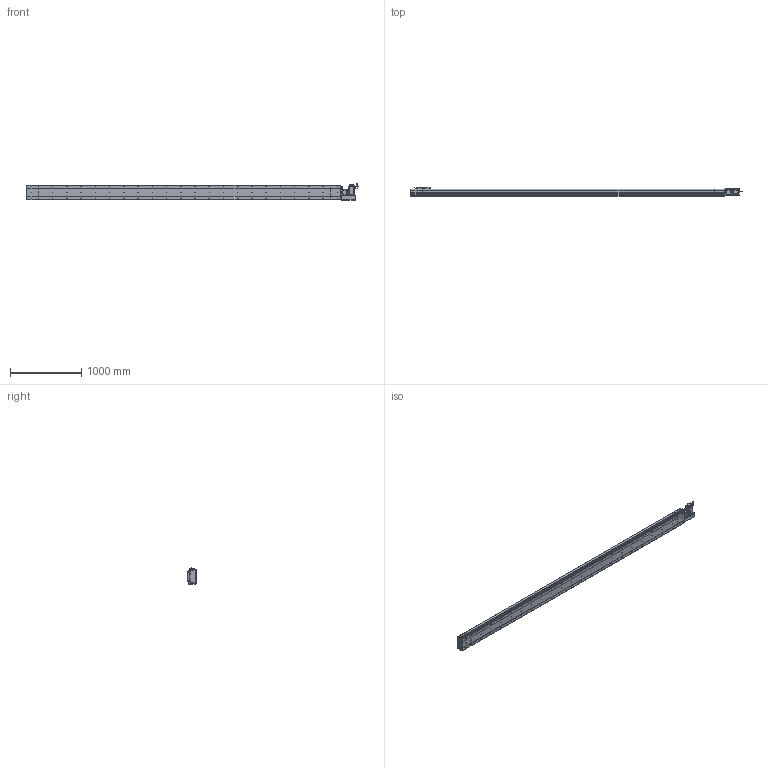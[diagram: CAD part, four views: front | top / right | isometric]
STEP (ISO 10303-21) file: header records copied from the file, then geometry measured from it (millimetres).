
FILE_DESCRIPTION (( 'STEP AP214' ), '1' );
FILE_NAME ('D20 CBH RH S4100.STEP', '2010-06-30T11:23:38', ( 'Conseil Régional Haute-Normandie' ), ( 'Conseil Régional Haute-Normandie' ), 'SwSTEP 2.0', 'SolidWorks 2010', '' );
FILE_SCHEMA (( 'AUTOMOTIVE_DESIGN' ));
Length unit declared in the file: millimetre
Products named in the file (31): Plaque De Serrage D20 RH_Default; Support moteur RH_Default; Rondelle Cache D20 RH_Default; corps 90BLDC125A-640; codeur 90BLDC125-640; Conecteur2_Default; Conecteur_Default; ecrou_Default; vis M5 L30_Default; Corp S4100_Default; Cache Support Moteur RH_Default; Couvercle_Default; Plaque De Serrage D20_Default; Tail D20+100_Default; Corp Tail D20+100_Default; Plaque de Bout Tail D20_Default; avant 90BLDC125A-640; Couvercle RH_Default; Plaque de Bout Head D20 RH_Default; Support Chariot D20_Default; Chariot D20_Default; Glissiere_Default; Corp D20 S4100_Default; D20 CBH RH S4100; Head D20 RH_Default; Corp Tail D20 RH_Default; Moteur motionking 90BLDC125A-640; vis M5 L47_Default; Couvercle S4100_Default; vis M5 L15_Default
Assembly tree (68 placements, depth 4):
  D20 CBH RH S4100
    Corp D20 S4100_Default
      Couvercle S4100_Default
      Corp S4100_Default
    Head D20 RH_Default
      Plaque de Bout Head D20 RH_Default
      vis M5 L15_Default  x14
      ecrou_Default  x4
      Moteur motionking 90BLDC125A-640
        codeur 90BLDC125-640
        Conecteur2_Default
        avant 90BLDC125A-640
        Conecteur_Default
        corps 90BLDC125A-640
      Rondelle Cache D20 RH_Default  x3
      vis M5 L30_Default  x4
      vis M5 L47_Default  x4
      Plaque De Serrage D20 RH_Default
      Couvercle RH_Default
      Cache Support Moteur RH_Default
      Support moteur RH_Default
      Corp Tail D20 RH_Default
    Tail D20+100_Default
      vis M5 L15_Default  x6
      Couvercle_Default
      Plaque de Bout Tail D20_Default
      Corp Tail D20+100_Default
      Plaque De Serrage D20_Default
    Chariot D20_Default
      vis M5 L15_Default  x8
      Glissiere_Default
      Chariot D20_Default
      Support Chariot D20_Default
Bounding box: 4665.45 x 119.5 x 229.7 mm (x, y, z)
Volume: 30190562.7 mm3; surface area: 5748142.6 mm2
Topology: 105 solids, 105 shells, 3919 faces, 9714 edges, 6310 vertices
Faces by surface type: plane 2164, bspline 806, cylinder 778, torus 95, cone 72, sphere 4
Entity records: 162230 total; most frequent: CARTESIAN_POINT 82775, ORIENTED_EDGE 15696, DIRECTION 12166, EDGE_CURVE 7848, VERTEX_POINT 5194, VECTOR 5020, LINE 5020, AXIS2_PLACEMENT_3D 3573
